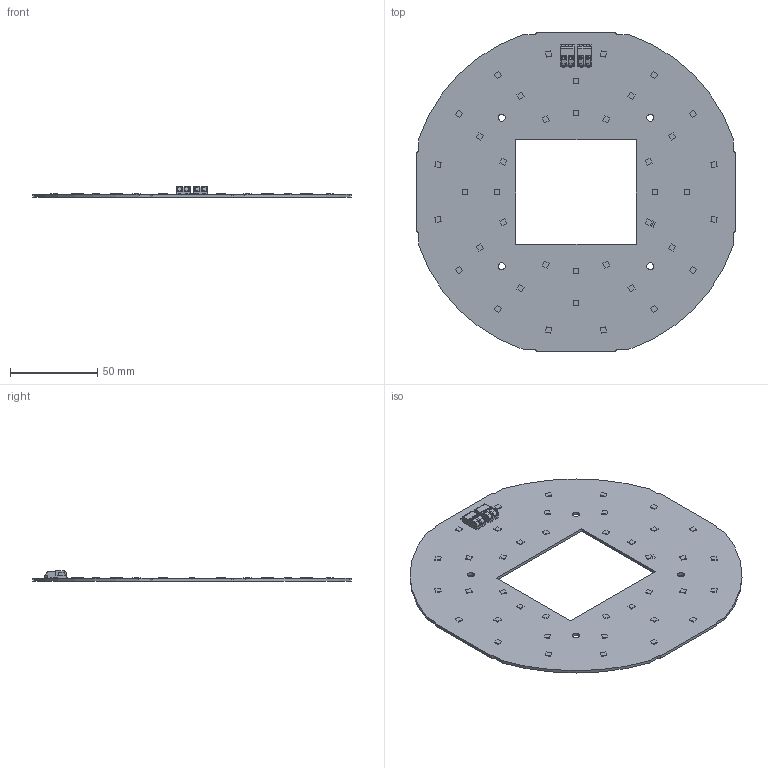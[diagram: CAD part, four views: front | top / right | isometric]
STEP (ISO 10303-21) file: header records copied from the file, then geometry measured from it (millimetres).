
FILE_DESCRIPTION((''),'2;1');
FILE_NAME('16208842_CLE-G4-190-ADV-EM-SO','2019-06-17T09:47:50',('bernhard.fink'),(''),'CREO PARAMETRIC BY PTC INC, 2017380','CREO PARAMETRIC BY PTC INC, 2017380','');
FILE_SCHEMA(('AUTOMOTIVE_DESIGN { 1 0 10303 214 1 1 1 1 }'));
Length unit declared in the file: millimetre
Products named in the file (1): 16208842_CLE-G4-190-ADV-EM-SO
Bounding box: 182 x 182 x 6.15 mm (x, y, z)
Volume: 39602.8 mm3; surface area: 49900.7 mm2
Topology: 1 solids, 1 shells, 605 faces, 1654 edges, 1100 vertices
Faces by surface type: plane 473, cylinder 128, sphere 4
Entity records: 28499 total; most frequent: CARTESIAN_POINT 3548, ORIENTED_EDGE 3308, DIRECTION 3092, PRESENTATION_STYLE_ASSIGNMENT 2218, STYLED_ITEM 1655, CURVE_STYLE 1654, EDGE_CURVE 1654, VECTOR 1342
